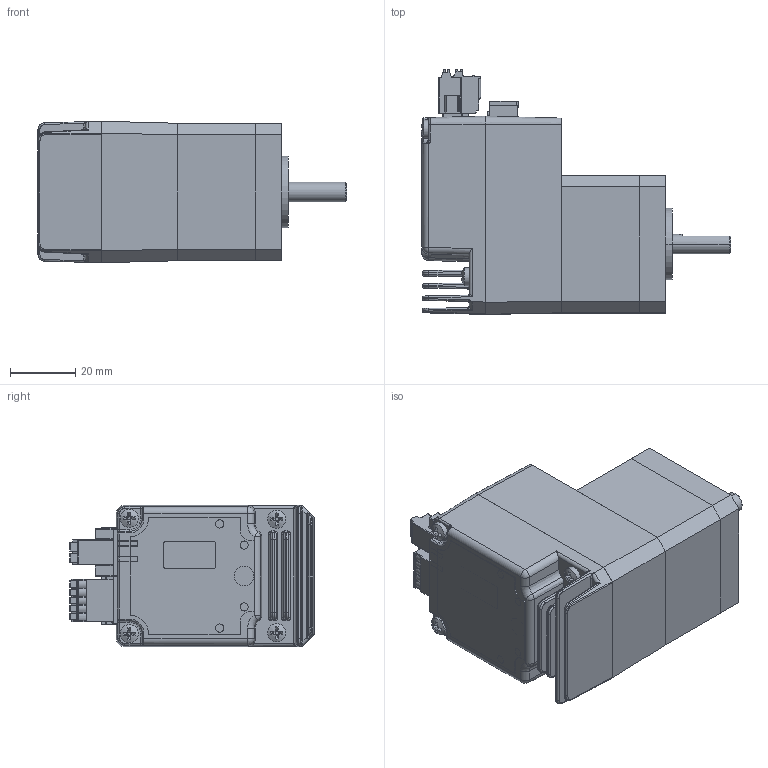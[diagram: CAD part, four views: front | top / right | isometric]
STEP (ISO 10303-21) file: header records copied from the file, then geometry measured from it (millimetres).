
FILE_DESCRIPTION (( 'STEP AP214' ), '1' );
FILE_NAME ('TSM17-2AG夥厙.STEP', '2021-07-14T02:49:01', ( 'Windows User' ), ( 'P R C' ), 'SwSTEP 2.0', 'SolidWorks 2015', '' );
FILE_SCHEMA (( 'AUTOMOTIVE_DESIGN' ));
Length unit declared in the file: millimetre
Products named in the file (18): 6.2ag; 9.2ag; 11.2ag; 10.2ag; 13.2ag; 3.2ag; 17.2ag; 4.2ag; 18.2ag; 12.2ag; 16.2ag; 1.2ag; TSM17-2AG夥厙; 15.2ag; 8.2ag; 2.2ag; 7.2ag; 5.2ag
Assembly tree (20 placements, depth 3):
  TSM17-2AG夥厙
    13.2ag
      16.2ag
      15.2ag
      18.2ag
      17.2ag
    12.2ag
    5.2ag
    4.2ag
    3.2ag
    10.2ag
    9.2ag
    11.2ag
    7.2ag
    2.2ag  x2
    6.2ag  x2
    8.2ag  x2
    1.2ag
Bounding box: 95.25 x 75.33 x 43.53 mm (x, y, z)
Volume: 99703.4 mm3; surface area: 65449.3 mm2
Topology: 16 solids, 26 shells, 3260 faces, 8421 edges, 5408 vertices
Faces by surface type: plane 2120, cylinder 778, bspline 183, torus 88, cone 72, sphere 19
Entity records: 125458 total; most frequent: CARTESIAN_POINT 22232, ORIENTED_EDGE 16370, DIRECTION 15659, EDGE_CURVE 8187, LINE 6067, VECTOR 6067, VERTEX_POINT 5286, AXIS2_PLACEMENT_3D 4796
